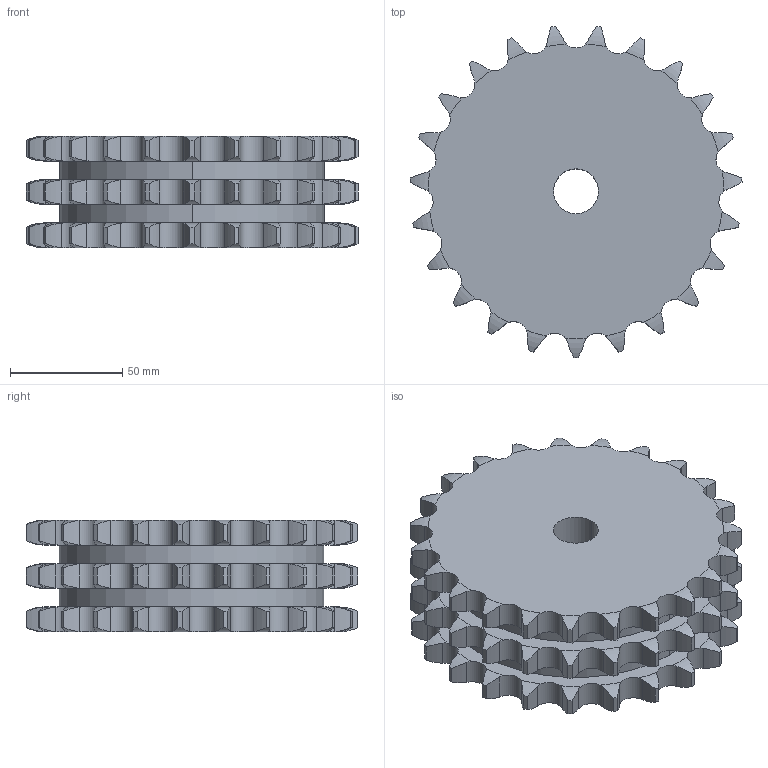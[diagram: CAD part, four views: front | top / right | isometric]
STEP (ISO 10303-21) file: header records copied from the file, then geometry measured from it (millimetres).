
FILE_DESCRIPTION((''),'2;1');
FILE_NAME('500-403-0023_PRT','2021-02-12T',('Brieden'),('Brieden'),'PRO/ENGINEER BY PARAMETRIC TECHNOLOGY CORPORATION, 2010160','PRO/ENGINEER BY PARAMETRIC TECHNOLOGY CORPORATION, 2010160','');
FILE_SCHEMA(('AUTOMOTIVE_DESIGN { 1 0 10303 214 1 1 1 1 }'));
Length unit declared in the file: millimetre
Products named in the file (1): 500-403-0023_PRT
Bounding box: 147.98 x 147.64 x 49.8 mm (x, y, z)
Volume: 641467.9 mm3; surface area: 72437.1 mm2
Topology: 1 solids, 1 shells, 426 faces, 1260 edges, 840 vertices
Faces by surface type: cylinder 282, torus 138, plane 6
Entity records: 20417 total; most frequent: CARTESIAN_POINT 5846, ORIENTED_EDGE 2520, DIRECTION 1986, PRESENTATION_STYLE_ASSIGNMENT 1261, STYLED_ITEM 1261, CURVE_STYLE 1260, EDGE_CURVE 1260, AXIS2_PLACEMENT_3D 852
